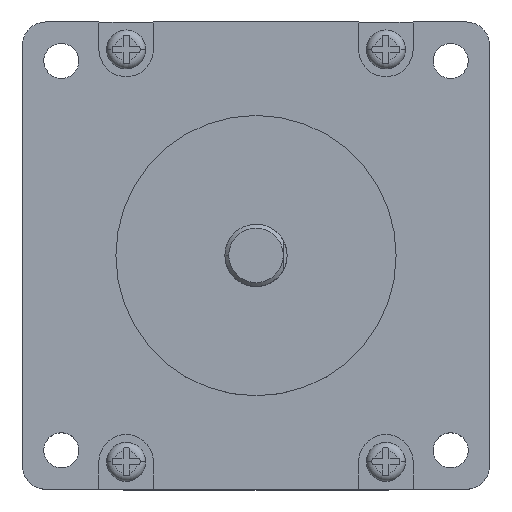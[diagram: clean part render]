
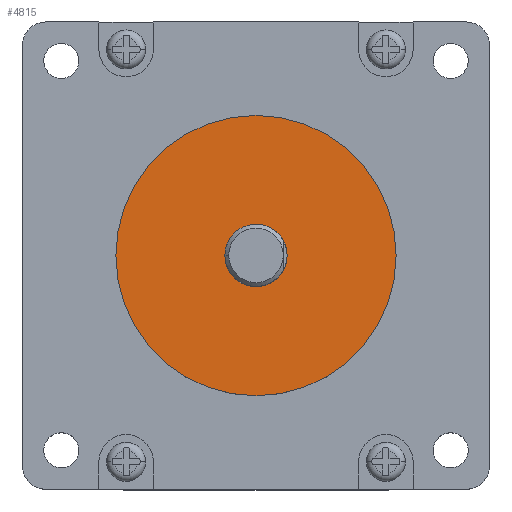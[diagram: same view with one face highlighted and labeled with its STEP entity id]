
A CAD part, top view. The second image highlights one B-rep face of the part: STEP entity #4815.
In plain terms, the highlighted planar face has unit normal (0, 0, 1).
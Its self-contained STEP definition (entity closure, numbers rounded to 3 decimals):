
#25 = EDGE_CURVE ( 'NONE', #6583, #1534, #3923, .T. ) ;
#38 = EDGE_CURVE ( 'NONE', #6524, #1589, #3941, .T. ) ;
#252 = EDGE_LOOP ( 'NONE', ( #6472, #6383 ) ) ;
#262 = EDGE_LOOP ( 'NONE', ( #6486, #6412 ) ) ;
#1497 = DIRECTION ( 'NONE',  ( 1., 0., 0. ) ) ;
#1498 = DIRECTION ( 'NONE',  ( 0., 0., 1. ) ) ;
#1507 = CARTESIAN_POINT ( 'NONE',  ( 0., 0., 4.1 ) ) ;
#1534 = VERTEX_POINT ( 'NONE', #4334 ) ;
#1557 = DIRECTION ( 'NONE',  ( 1., 0., 0. ) ) ;
#1558 = DIRECTION ( 'NONE',  ( 0., 0., 1. ) ) ;
#1560 = CARTESIAN_POINT ( 'NONE',  ( 0., 0., 4.1 ) ) ;
#1589 = VERTEX_POINT ( 'NONE', #4471 ) ;
#1700 = CIRCLE ( 'NONE', #6738, 4. ) ;
#2010 = CARTESIAN_POINT ( 'NONE',  ( 0., 0., 4.1 ) ) ;
#2018 = PLANE ( 'NONE',  #5509 ) ;
#2019 = DIRECTION ( 'NONE',  ( 0., 0., 1. ) ) ;
#2020 = DIRECTION ( 'NONE',  ( 1., 0., 0. ) ) ;
#2767 = CARTESIAN_POINT ( 'NONE',  ( 0., 0., 4.1 ) ) ;
#2775 = DIRECTION ( 'NONE',  ( 0., 0., 1. ) ) ;
#2776 = DIRECTION ( 'NONE',  ( 1., 0., 0. ) ) ;
#2790 = CARTESIAN_POINT ( 'NONE',  ( 0., 0., 4.1 ) ) ;
#2796 = DIRECTION ( 'NONE',  ( 0., 0., 1. ) ) ;
#2797 = DIRECTION ( 'NONE',  ( 1., 0., 0. ) ) ;
#2855 = CARTESIAN_POINT ( 'NONE',  ( 4., 0., 4.1 ) ) ;
#2914 = CARTESIAN_POINT ( 'NONE',  ( 18., 0., 4.1 ) ) ;
#3375 = FACE_BOUND ( 'NONE', #252, .T. ) ;
#3378 = FACE_OUTER_BOUND ( 'NONE', #262, .T. ) ;
#3767 = CIRCLE ( 'NONE', #5634, 18. ) ;
#3923 = CIRCLE ( 'NONE', #4950, 18. ) ;
#3941 = CIRCLE ( 'NONE', #4957, 4. ) ;
#4334 = CARTESIAN_POINT ( 'NONE',  ( -18., 0., 4.1 ) ) ;
#4471 = CARTESIAN_POINT ( 'NONE',  ( -4., 0., 4.1 ) ) ;
#4815 = ADVANCED_FACE ( 'NONE', ( #3378, #3375 ), #2018, .T. ) ;
#4950 = AXIS2_PLACEMENT_3D ( 'NONE', #1560, #1558, #1557 ) ;
#4957 = AXIS2_PLACEMENT_3D ( 'NONE', #1507, #1498, #1497 ) ;
#5157 = EDGE_CURVE ( 'NONE', #1534, #6583, #3767, .T. ) ;
#5165 = EDGE_CURVE ( 'NONE', #1589, #6524, #1700, .T. ) ;
#5509 = AXIS2_PLACEMENT_3D ( 'NONE', #2010, #2019, #2020 ) ;
#5634 = AXIS2_PLACEMENT_3D ( 'NONE', #2767, #2775, #2776 ) ;
#6383 = ORIENTED_EDGE ( 'NONE', *, *, #38, .F. ) ;
#6412 = ORIENTED_EDGE ( 'NONE', *, *, #25, .T. ) ;
#6472 = ORIENTED_EDGE ( 'NONE', *, *, #5165, .F. ) ;
#6486 = ORIENTED_EDGE ( 'NONE', *, *, #5157, .T. ) ;
#6524 = VERTEX_POINT ( 'NONE', #2855 ) ;
#6583 = VERTEX_POINT ( 'NONE', #2914 ) ;
#6738 = AXIS2_PLACEMENT_3D ( 'NONE', #2790, #2796, #2797 ) ;
